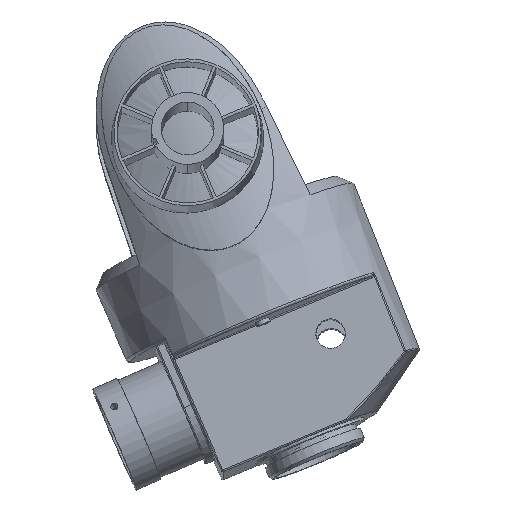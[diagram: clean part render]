
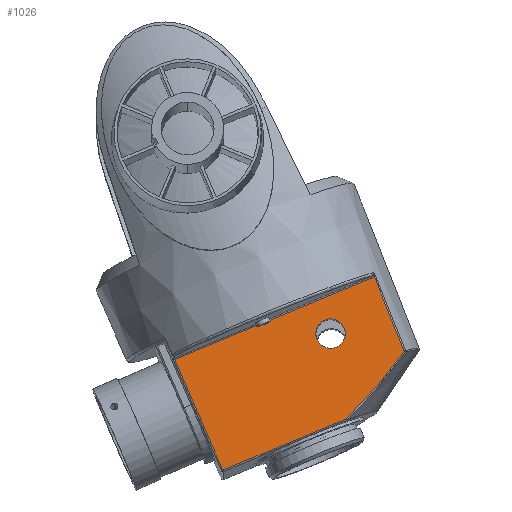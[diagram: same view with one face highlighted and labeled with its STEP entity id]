
A CAD part, left-side view. The second image highlights one B-rep face of the part: STEP entity #1026.
In plain terms, the highlighted planar face has unit normal (-0.999, -0.007, 0.051).
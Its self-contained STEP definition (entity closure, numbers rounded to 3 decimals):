
#79 = LINE ( 'NONE', #12496, #1671 ) ;
#544 = CARTESIAN_POINT ( 'NONE',  ( -40.164, 8.52, 96.502 ) ) ;
#581 = CARTESIAN_POINT ( 'NONE',  ( -38.233, 9.107, 134.354 ) ) ;
#595 = CARTESIAN_POINT ( 'NONE',  ( -40.415, 12.323, 92.087 ) ) ;
#597 = CARTESIAN_POINT ( 'NONE',  ( -40.138, 8.138, 96.96 ) ) ;
#661 = CARTESIAN_POINT ( 'NONE',  ( -40.241, 9.654, 95.152 ) ) ;
#1026 = ADVANCED_FACE ( 'NONE', ( #3397, #3007 ), #8250, .T. ) ;
#1036 = EDGE_CURVE ( 'NONE', #12861, #8320, #6386, .T. ) ;
#1061 = CARTESIAN_POINT ( 'NONE',  ( -40.628, 15.794, 88.387 ) ) ;
#1329 = CARTESIAN_POINT ( 'NONE',  ( -40.134, 76.801, 106.043 ) ) ;
#1375 = VERTEX_POINT ( 'NONE', #10252 ) ;
#1436 = DIRECTION ( 'NONE',  ( -0.044, -0.399, -0.916 ) ) ;
#1578 = CARTESIAN_POINT ( 'NONE',  ( -40.139, 8.149, 96.947 ) ) ;
#1636 = VERTEX_POINT ( 'NONE', #11240 ) ;
#1671 = VECTOR ( 'NONE', #6714, 1000. ) ;
#1679 = CARTESIAN_POINT ( 'NONE',  ( -40.465, 13.109, 91.226 ) ) ;
#1943 = CARTESIAN_POINT ( 'NONE',  ( -38.229, 9.057, 134.435 ) ) ;
#1952 = CARTESIAN_POINT ( 'NONE',  ( -40.625, 15.751, 88.431 ) ) ;
#2004 = CARTESIAN_POINT ( 'NONE',  ( -39.074, 23.807, 119.844 ) ) ;
#2058 = CARTESIAN_POINT ( 'NONE',  ( -38.272, 9.926, 133.71 ) ) ;
#2062 = CARTESIAN_POINT ( 'NONE',  ( -40.623, 15.706, 88.477 ) ) ;
#2392 = EDGE_LOOP ( 'NONE', ( #4651, #5212 ) ) ;
#2552 = ORIENTED_EDGE ( 'NONE', *, *, #14619, .T. ) ;
#2581 = AXIS2_PLACEMENT_3D ( 'NONE', #3942, #2782, #7089 ) ;
#2589 = EDGE_CURVE ( 'NONE', #1375, #3218, #14186, .T. ) ;
#2676 = CARTESIAN_POINT ( 'NONE',  ( -39.518, 13.804, 109.846 ) ) ;
#2782 = DIRECTION ( 'NONE',  ( -0.999, -0.007, 0.051 ) ) ;
#3007 = FACE_OUTER_BOUND ( 'NONE', #14129, .T. ) ;
#3050 = VECTOR ( 'NONE', #1436, 1000. ) ;
#3075 = CARTESIAN_POINT ( 'NONE',  ( -38.246, 9.291, 134.135 ) ) ;
#3098 = DIRECTION ( 'NONE',  ( -0.045, -0.373, -0.927 ) ) ;
#3108 = CARTESIAN_POINT ( 'NONE',  ( -40.623, 15.722, 88.461 ) ) ;
#3218 = VERTEX_POINT ( 'NONE', #2058 ) ;
#3397 = FACE_BOUND ( 'NONE', #2392, .T. ) ;
#3753 = VECTOR ( 'NONE', #9397, 1000. ) ;
#3936 = CARTESIAN_POINT ( 'NONE',  ( -39.584, 23.805, 109.852 ) ) ;
#3942 = CARTESIAN_POINT ( 'NONE',  ( -36.336, 72.395, 179.762 ) ) ;
#3950 = CARTESIAN_POINT ( 'NONE',  ( -39.728, 2.282, 104.22 ) ) ;
#4276 = CARTESIAN_POINT ( 'NONE',  ( -40.559, 14.643, 89.574 ) ) ;
#4320 = B_SPLINE_CURVE_WITH_KNOTS ( 'NONE', 3,
 ( #14632, #5486, #9970, #8873, #4420, #6690, #1061, #1952, #3108, #2062, #7658, #4276, #12216, #5392, #10021, #12270, #5444, #14582, #1679, #13051, #595, #7340, #661, #8406, #544, #14070, #6169, #7384, #10813, #1578, #10761, #597, #7292, #3950, #8354 ),
 .UNSPECIFIED., .F., .F.,
 ( 4, 1, 1, 1, 1, 1, 2, 2, 1, 1, 1, 1, 1, 1, 2, 2, 1, 1, 1, 1, 1, 1, 1, 1, 2, 2, 4 ),
 ( 0., 0.063, 0.094, 0.109, 0.117, 0.121, 0.123, 0.125, 0.188, 0.219, 0.234, 0.242, 0.246, 0.248, 0.249, 0.25, 0.375, 0.438, 0.469, 0.484, 0.492, 0.496, 0.498, 0.499, 0.5, 0.5, 1. ),
 .UNSPECIFIED. ) ;
#4420 = CARTESIAN_POINT ( 'NONE',  ( -40.645, 16.096, 88.082 ) ) ;
#4651 = ORIENTED_EDGE ( 'NONE', *, *, #5037, .T. ) ;
#4710 = CARTESIAN_POINT ( 'NONE',  ( -39.584, 23.805, 109.852 ) ) ;
#4758 =( BOUNDED_CURVE ( )  B_SPLINE_CURVE ( 3, ( #5442, #10125, #8821, #2004 ),
 .UNSPECIFIED., .F., .F. ) 
 B_SPLINE_CURVE_WITH_KNOTS ( ( 4, 4 ),
 ( 0.393, 3.535 ),
 .UNSPECIFIED. ) 
 CURVE ( )  GEOMETRIC_REPRESENTATION_ITEM ( )  RATIONAL_B_SPLINE_CURVE ( ( 1., 0.333, 0.333, 1. ) ) 
 REPRESENTATION_ITEM ( '' )  );
#5037 = EDGE_CURVE ( 'NONE', #6167, #1636, #4758, .T. ) ;
#5064 = ORIENTED_EDGE ( 'NONE', *, *, #6600, .T. ) ;
#5212 = ORIENTED_EDGE ( 'NONE', *, *, #14222, .T. ) ;
#5230 = ORIENTED_EDGE ( 'NONE', *, *, #7302, .T. ) ;
#5392 = CARTESIAN_POINT ( 'NONE',  ( -40.488, 13.488, 90.813 ) ) ;
#5418 = CARTESIAN_POINT ( 'NONE',  ( -40.775, 18.41, 85.848 ) ) ;
#5442 = CARTESIAN_POINT ( 'NONE',  ( -39.584, 23.805, 109.852 ) ) ;
#5444 = CARTESIAN_POINT ( 'NONE',  ( -40.467, 13.144, 91.188 ) ) ;
#5486 = CARTESIAN_POINT ( 'NONE',  ( -40.751, 17.966, 86.258 ) ) ;
#5699 = ORIENTED_EDGE ( 'NONE', *, *, #1036, .T. ) ;
#5966 = VECTOR ( 'NONE', #3098, 1000. ) ;
#6167 = VERTEX_POINT ( 'NONE', #4710 ) ;
#6169 = CARTESIAN_POINT ( 'NONE',  ( -40.145, 8.232, 96.847 ) ) ;
#6386 = LINE ( 'NONE', #12904, #3753 ) ;
#6600 = EDGE_CURVE ( 'NONE', #9114, #12861, #10534, .T. ) ;
#6690 = CARTESIAN_POINT ( 'NONE',  ( -40.634, 15.895, 88.285 ) ) ;
#6714 = DIRECTION ( 'NONE',  ( -0.026, 0.924, -0.382 ) ) ;
#7089 = DIRECTION ( 'NONE',  ( 0.051, 0., 0.999 ) ) ;
#7292 = CARTESIAN_POINT ( 'NONE',  ( -39.952, 5.406, 100.251 ) ) ;
#7302 = EDGE_CURVE ( 'NONE', #8320, #12520, #4320, .T. ) ;
#7340 = CARTESIAN_POINT ( 'NONE',  ( -40.338, 11.125, 93.436 ) ) ;
#7384 = CARTESIAN_POINT ( 'NONE',  ( -40.141, 8.184, 96.905 ) ) ;
#7573 = CARTESIAN_POINT ( 'NONE',  ( -38.229, 9.057, 134.435 ) ) ;
#7658 = CARTESIAN_POINT ( 'NONE',  ( -40.597, 15.278, 88.913 ) ) ;
#8250 = PLANE ( 'NONE',  #2581 ) ;
#8320 = VERTEX_POINT ( 'NONE', #5418 ) ;
#8354 = CARTESIAN_POINT ( 'NONE',  ( -39.467, -1.236, 108.868 ) ) ;
#8406 = CARTESIAN_POINT ( 'NONE',  ( -40.19, 8.901, 96.046 ) ) ;
#8534 = CARTESIAN_POINT ( 'NONE',  ( -38.261, 9.582, 133.882 ) ) ;
#8586 = CARTESIAN_POINT ( 'NONE',  ( -38.267, 9.745, 133.784 ) ) ;
#8821 = CARTESIAN_POINT ( 'NONE',  ( -39.14, 33.808, 119.849 ) ) ;
#8873 = CARTESIAN_POINT ( 'NONE',  ( -40.669, 16.497, 87.68 ) ) ;
#9114 = VERTEX_POINT ( 'NONE', #1329 ) ;
#9397 = DIRECTION ( 'NONE',  ( 0.026, -0.924, 0.382 ) ) ;
#9446 = CARTESIAN_POINT ( 'NONE',  ( -39.074, 23.807, 119.844 ) ) ;
#9623 = CARTESIAN_POINT ( 'NONE',  ( -40.134, 76.801, 106.043 ) ) ;
#9886 = CARTESIAN_POINT ( 'NONE',  ( -38.24, 9.192, 134.239 ) ) ;
#9970 = CARTESIAN_POINT ( 'NONE',  ( -40.714, 17.293, 86.896 ) ) ;
#10021 = CARTESIAN_POINT ( 'NONE',  ( -40.476, 13.292, 91.026 ) ) ;
#10125 = CARTESIAN_POINT ( 'NONE',  ( -39.651, 33.805, 109.857 ) ) ;
#10252 = CARTESIAN_POINT ( 'NONE',  ( -38.229, 9.057, 134.435 ) ) ;
#10534 = LINE ( 'NONE', #9623, #3050 ) ;
#10604 = CARTESIAN_POINT ( 'NONE',  ( -39.467, -1.236, 108.868 ) ) ;
#10761 = CARTESIAN_POINT ( 'NONE',  ( -40.139, 8.142, 96.955 ) ) ;
#10813 = CARTESIAN_POINT ( 'NONE',  ( -40.14, 8.16, 96.934 ) ) ;
#10845 = CARTESIAN_POINT ( 'NONE',  ( -38.252, 9.399, 134.034 ) ) ;
#10893 = CARTESIAN_POINT ( 'NONE',  ( -38.272, 9.926, 133.71 ) ) ;
#11117 = ORIENTED_EDGE ( 'NONE', *, *, #13942, .F. ) ;
#11240 = CARTESIAN_POINT ( 'NONE',  ( -39.074, 23.807, 119.844 ) ) ;
#11799 = CARTESIAN_POINT ( 'NONE',  ( -39.007, 13.806, 119.838 ) ) ;
#12042 = ORIENTED_EDGE ( 'NONE', *, *, #2589, .T. ) ;
#12216 = CARTESIAN_POINT ( 'NONE',  ( -40.512, 13.877, 90.392 ) ) ;
#12270 = CARTESIAN_POINT ( 'NONE',  ( -40.47, 13.194, 91.134 ) ) ;
#12496 = CARTESIAN_POINT ( 'NONE',  ( -38.272, 9.926, 133.71 ) ) ;
#12520 = VERTEX_POINT ( 'NONE', #10604 ) ;
#12861 = VERTEX_POINT ( 'NONE', #14606 ) ;
#12904 = CARTESIAN_POINT ( 'NONE',  ( -41.945, 60.429, 68.464 ) ) ;
#12924 = LINE ( 'NONE', #1943, #5966 ) ;
#13051 = CARTESIAN_POINT ( 'NONE',  ( -40.464, 13.101, 91.235 ) ) ;
#13236 = CARTESIAN_POINT ( 'NONE',  ( -38.25, 9.361, 134.067 ) ) ;
#13711 =( BOUNDED_CURVE ( )  B_SPLINE_CURVE ( 3, ( #9446, #11799, #2676, #3936 ),
 .UNSPECIFIED., .F., .F. ) 
 B_SPLINE_CURVE_WITH_KNOTS ( ( 4, 4 ),
 ( 3.535, 6.676 ),
 .UNSPECIFIED. ) 
 CURVE ( )  GEOMETRIC_REPRESENTATION_ITEM ( )  RATIONAL_B_SPLINE_CURVE ( ( 1., 0.333, 0.333, 1. ) ) 
 REPRESENTATION_ITEM ( '' )  );
#13942 = EDGE_CURVE ( 'NONE', #1375, #12520, #12924, .T. ) ;
#14070 = CARTESIAN_POINT ( 'NONE',  ( -40.151, 8.328, 96.732 ) ) ;
#14129 = EDGE_LOOP ( 'NONE', ( #5699, #5230, #11117, #12042, #2552, #5064 ) ) ;
#14186 = B_SPLINE_CURVE_WITH_KNOTS ( 'NONE', 3,
 ( #7573, #581, #9886, #3075, #13236, #10845, #8534, #8586, #10893 ),
 .UNSPECIFIED., .F., .F.,
 ( 4, 1, 2, 2, 4 ),
 ( 0., 0.25, 0.375, 0.5, 1. ),
 .UNSPECIFIED. ) ;
#14222 = EDGE_CURVE ( 'NONE', #1636, #6167, #13711, .T. ) ;
#14582 = CARTESIAN_POINT ( 'NONE',  ( -40.465, 13.123, 91.211 ) ) ;
#14606 = CARTESIAN_POINT ( 'NONE',  ( -41.945, 60.429, 68.464 ) ) ;
#14619 = EDGE_CURVE ( 'NONE', #3218, #9114, #79, .T. ) ;
#14632 = CARTESIAN_POINT ( 'NONE',  ( -40.775, 18.41, 85.848 ) ) ;
